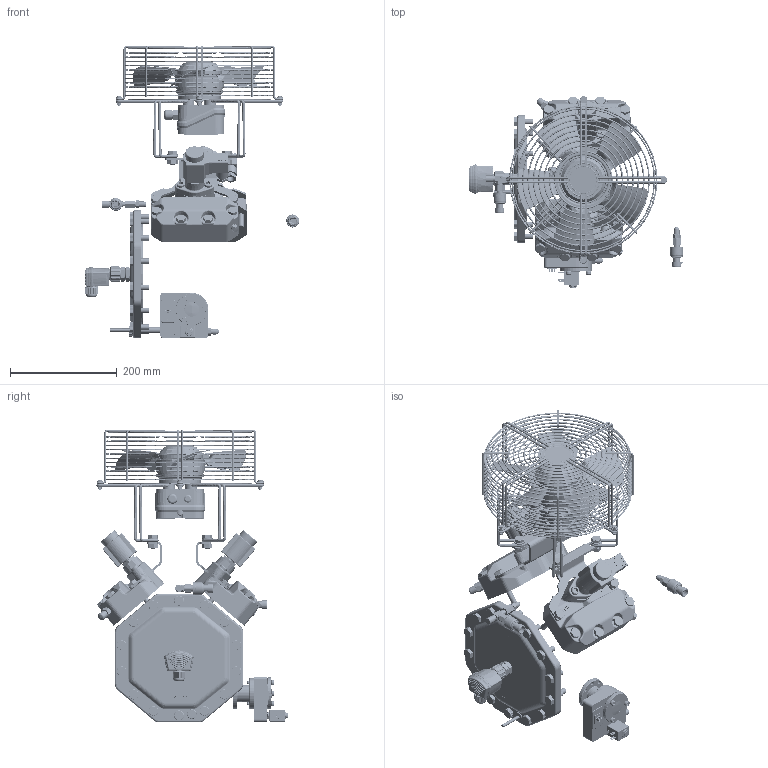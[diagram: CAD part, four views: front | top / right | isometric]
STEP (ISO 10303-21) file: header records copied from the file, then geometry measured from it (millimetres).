
FILE_DESCRIPTION(/* description */ (''),/* implementation_level */ '2;1');
FILE_NAME(/* name */ '4FES-4EES-4DES-4CES-4BES-OPT.stp',/* time_stamp */ '2023-12-08T16:17:04+01:00',/* author */ (''),/* organization */ (''),/* preprocessor_version */ 'ST-DEVELOPER v19.3',/* originating_system */ 'SIEMENS PLM Software NX2212.3001',/* authorisation */ '');
FILE_SCHEMA (('AUTOMOTIVE_DESIGN { 1 0 10303 214 3 1 1 1 }'));
Products named in the file (9): FAN-BRACKET-4FCS-4NCS; PRESSURE-TEMPERATURE-SENSOR; OIL-LEVEL-MONITRG-ADPTR-OLM-IQ; BEARING-COVER-CE3-W-PRISM-UNIT; BEARING-OVER-2EC-4CC; CYL-HEAD-AIR-CR-SOLEN-VALVE-LE; CYL-HEAD-AIR-CR-SOLEN-VALVE-RE; CRANKCASE-HEATER-200-460V; 4FES-4EES-4DES-4CES-4BES-OPT
Assembly tree (8 placements, depth 2):
  4FES-4EES-4DES-4CES-4BES-OPT
    CRANKCASE-HEATER-200-460V
    CYL-HEAD-AIR-CR-SOLEN-VALVE-RE
    CYL-HEAD-AIR-CR-SOLEN-VALVE-LE
    BEARING-OVER-2EC-4CC
    BEARING-COVER-CE3-W-PRISM-UNIT
    OIL-LEVEL-MONITRG-ADPTR-OLM-IQ
    PRESSURE-TEMPERATURE-SENSOR
    FAN-BRACKET-4FCS-4NCS
Bounding box: 402.1 x 359.25 x 549.5 mm (x, y, z)
Volume: 5591623.2 mm3; surface area: 955428.2 mm2
Topology: 12 solids, 22 shells, 6102 faces, 16253 edges, 10005 vertices
Faces by surface type: plane 2441, cylinder 1235, bspline 966, cone 767, torus 527, sphere 110, extrusion 56
Full cylindrical faces by diameter (mm): 1.5 x4, 1.8 x3, 2.5 x1, 3.2 x2, 4 x5, 4.9 x1, 5 x1, 6 x6, 6.6 x2, 6.9 x3, 7 x3, 7.9 x1, 8 x3, 8.302 x1, 9 x3, 9.5 x2, 9.76 x4, 9.8 x1, 10 x57, 10.287 x1, 10.29 x2, 10.5 x4, 10.907 x2, 11 x8, 11.1 x2, 11.113 x1, 11.684 x2, 12 x4, 12.2 x1, 12.86 x2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
Entity records: 294849 total; most frequent: CARTESIAN_POINT 129955, ORIENTED_EDGE 30908, DIRECTION 25866, EDGE_CURVE 15454, AXIS2_PLACEMENT_3D 9842, VERTEX_POINT 9802, EDGE_LOOP 7297, VECTOR 6182
